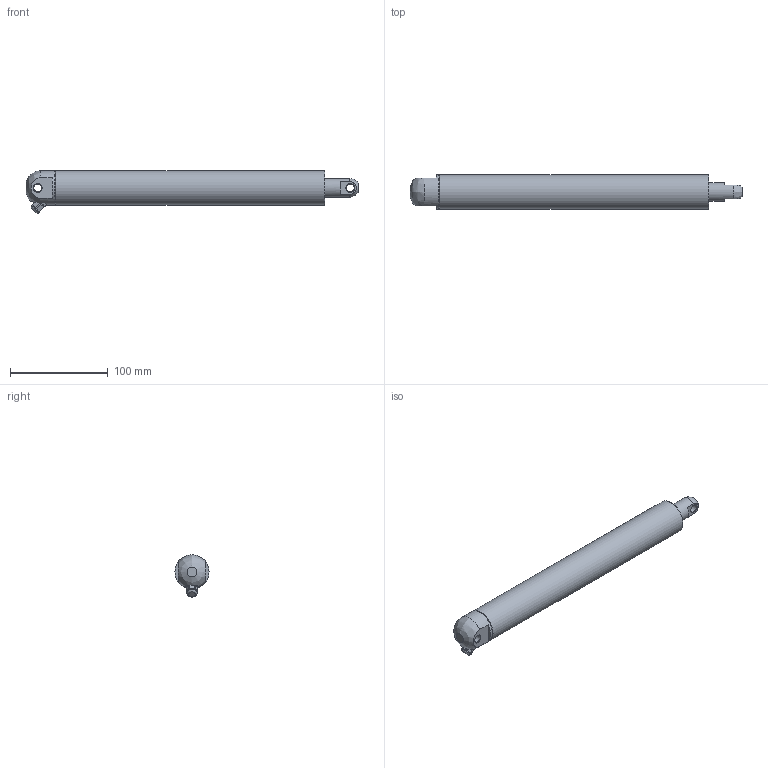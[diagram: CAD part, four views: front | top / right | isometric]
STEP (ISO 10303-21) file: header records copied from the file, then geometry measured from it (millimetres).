
FILE_DESCRIPTION( ( 'Unknown' ), '1' );
FILE_NAME( 'Z:/12¬ãµo³¡/Project/Automation/Linear Actuators/CAD/ELA35/STEP/ELA35100B.stp', 'Unknown', ( 'Unknown' ), ( 'Unknown' ), 'PSStep 10.0', 'Unknown', ' ' );
FILE_SCHEMA( ( 'AUTOMOTIVE_DESIGN { 1 0 10303 214 1 1 1 1 }' ) );
Length unit declared in the file: millimetre
Products named in the file (1): 1
Bounding box: 340 x 35 x 43.32 mm (x, y, z)
Volume: 88854.3 mm3; surface area: 66196.5 mm2
Topology: 1 solids, 2 shells, 61 faces, 149 edges, 97 vertices
Faces by surface type: plane 30, cylinder 21, cone 7, bspline 2, torus 1
Full cylindrical faces by diameter (mm): 8.1 x2, 10.8 x2, 19 x1, 31 x1, 35 x2
Entity records: 2428 total; most frequent: CARTESIAN_POINT 557, DIRECTION 296, ORIENTED_EDGE 250, EDGE_CURVE 125, AXIS2_PLACEMENT_3D 118, VERTEX_POINT 91, EDGE_LOOP 88, FACE_OUTER_BOUND 72
